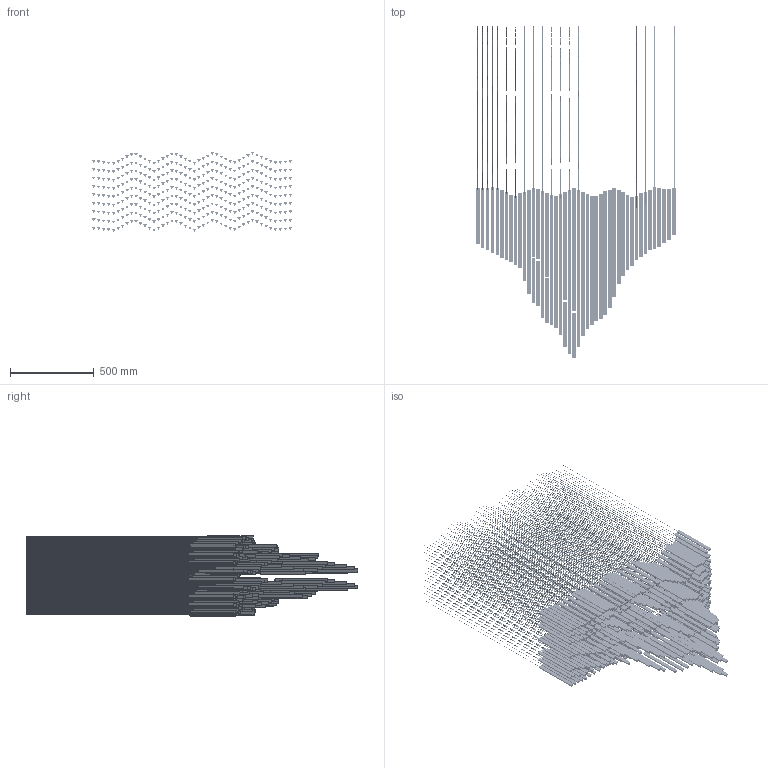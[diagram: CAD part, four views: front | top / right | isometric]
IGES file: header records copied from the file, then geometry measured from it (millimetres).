
Start section: SolidWorks IGES file using analytic representation for surfaces
Global section: file name: 74HF:\燠隴矨\3D\2026-4\Diamond Cloud Customize Chandelier-L120xW50xH200cm.igs; native system: SolidWorks 2022; preprocessor: SolidWorks 2022; author: MyPC; date: 260403.152457; units: millimetre
Bounding box: 1197.37 x 1984.74 x 478.97 mm (x, y, z)
Surface area: 10193197.2 mm2 (no closed solid volume)
Topology: 0 solids, 0 shells, 3564 faces, 35640 edges, 35640 vertices
Faces by surface type: bspline 2772, revolution 792
